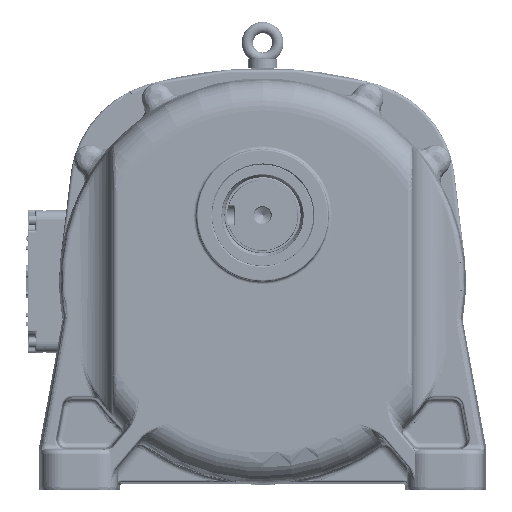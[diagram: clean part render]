
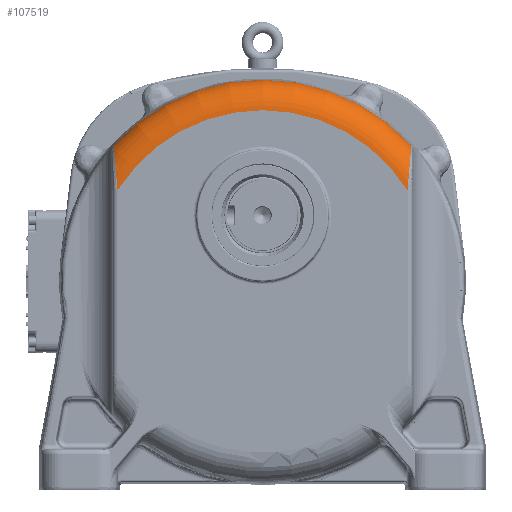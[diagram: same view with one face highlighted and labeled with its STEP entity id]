
A CAD part, front view. The second image highlights one B-rep face of the part: STEP entity #107519.
In plain terms, the highlighted toroidal (fillet/blend) face has major radius 168.286 mm and minor radius 30 mm.
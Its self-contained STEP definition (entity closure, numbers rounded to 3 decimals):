
#2210=TOROIDAL_SURFACE('',#114452,168.286,30.);
#3135=B_SPLINE_CURVE_WITH_KNOTS('',3,(#164563,#164564,#164565,#164566,#164567,
#164568,#164569,#164570),.UNSPECIFIED.,.F.,.F.,(4,1,1,1,1,4),(-4.797,
-3.426,-2.056,-1.028,-0.685,
0.),.UNSPECIFIED.);
#3136=B_SPLINE_CURVE_WITH_KNOTS('',3,(#164574,#164575,#164576,#164577,#164578,
#164579,#164580,#164581),.UNSPECIFIED.,.F.,.F.,(4,1,1,1,1,4),(-4.797,
-4.112,-3.427,-2.056,-0.685,
0.),.UNSPECIFIED.);
#3137=B_SPLINE_CURVE_WITH_KNOTS('',3,(#164582,#164583,#164584,#164585),
 .UNSPECIFIED.,.F.,.F.,(4,4),(-0.483,0.),.UNSPECIFIED.);
#3138=B_SPLINE_CURVE_WITH_KNOTS('',3,(#164586,#164587,#164588,#164589),
 .UNSPECIFIED.,.F.,.F.,(4,4),(0.,0.483),.UNSPECIFIED.);
#9314=FACE_OUTER_BOUND('',#15771,.T.);
#15771=EDGE_LOOP('',(#70151,#70152,#70153,#70154,#70155,#70156));
#36114=CIRCLE('',#114442,198.284);
#36124=CIRCLE('',#114453,168.286);
#42390=VERTEX_POINT('',#164482);
#42392=VERTEX_POINT('',#164493);
#42404=VERTEX_POINT('',#164561);
#42405=VERTEX_POINT('',#164562);
#42406=VERTEX_POINT('',#164571);
#42407=VERTEX_POINT('',#164573);
#52794=EDGE_CURVE('',#42392,#42390,#36114,.T.);
#52811=EDGE_CURVE('',#42404,#42405,#3135,.T.);
#52812=EDGE_CURVE('',#42404,#42406,#36124,.T.);
#52813=EDGE_CURVE('',#42407,#42406,#3136,.T.);
#52814=EDGE_CURVE('',#42392,#42407,#3137,.T.);
#52815=EDGE_CURVE('',#42405,#42390,#3138,.T.);
#70151=ORIENTED_EDGE('',*,*,#52811,.F.);
#70152=ORIENTED_EDGE('',*,*,#52812,.T.);
#70153=ORIENTED_EDGE('',*,*,#52813,.F.);
#70154=ORIENTED_EDGE('',*,*,#52814,.F.);
#70155=ORIENTED_EDGE('',*,*,#52794,.T.);
#70156=ORIENTED_EDGE('',*,*,#52815,.F.);
#107519=ADVANCED_FACE('',(#9314),#2210,.T.);
#114442=AXIS2_PLACEMENT_3D('',#164494,#127179,#127180);
#114452=AXIS2_PLACEMENT_3D('',#164560,#127199,#127200);
#114453=AXIS2_PLACEMENT_3D('',#164572,#127201,#127202);
#127179=DIRECTION('center_axis',(0.,-1.,0.));
#127180=DIRECTION('ref_axis',(-1.,0.,0.));
#127199=DIRECTION('center_axis',(0.,1.,0.));
#127200=DIRECTION('ref_axis',(0.,0.,1.));
#127201=DIRECTION('center_axis',(0.,1.,0.));
#127202=DIRECTION('ref_axis',(-1.,0.,0.));
#164482=CARTESIAN_POINT('',(-159.189,10.455,131.873));
#164493=CARTESIAN_POINT('',(133.806,10.455,131.873));
#164494=CARTESIAN_POINT('Origin',(-12.691,10.455,-1.75));
#164560=CARTESIAN_POINT('Origin',(-12.691,10.742,-1.75));
#164561=CARTESIAN_POINT('',(-155.191,-19.258,87.77));
#164562=CARTESIAN_POINT('',(-158.812,4.742,131.388));
#164563=CARTESIAN_POINT('Ctrl Pts',(-155.191,-19.258,
87.77));
#164564=CARTESIAN_POINT('Ctrl Pts',(-155.603,-19.258,
92.597));
#164565=CARTESIAN_POINT('Ctrl Pts',(-156.436,-18.415,
102.342));
#164566=CARTESIAN_POINT('Ctrl Pts',(-157.535,-14.01,
115.486));
#164567=CARTESIAN_POINT('Ctrl Pts',(-158.217,-7.794,
123.899));
#164568=CARTESIAN_POINT('Ctrl Pts',(-158.614,-1.566,
128.866));
#164569=CARTESIAN_POINT('Ctrl Pts',(-158.755,2.119,
130.656));
#164570=CARTESIAN_POINT('Ctrl Pts',(-158.812,4.742,
131.388));
#164571=CARTESIAN_POINT('',(129.809,-19.258,87.77));
#164572=CARTESIAN_POINT('Origin',(-12.691,-19.258,-1.75));
#164573=CARTESIAN_POINT('',(133.43,4.742,131.388));
#164574=CARTESIAN_POINT('Ctrl Pts',(133.43,4.742,131.388));
#164575=CARTESIAN_POINT('Ctrl Pts',(133.373,2.119,130.656));
#164576=CARTESIAN_POINT('Ctrl Pts',(133.184,-2.797,
128.269));
#164577=CARTESIAN_POINT('Ctrl Pts',(132.605,-10.577,
121.035));
#164578=CARTESIAN_POINT('Ctrl Pts',(131.666,-16.542,109.602));
#164579=CARTESIAN_POINT('Ctrl Pts',(130.635,-18.936,
97.452));
#164580=CARTESIAN_POINT('Ctrl Pts',(130.015,-19.258,
90.184));
#164581=CARTESIAN_POINT('Ctrl Pts',(129.809,-19.258,
87.77));
#164582=CARTESIAN_POINT('Ctrl Pts',(133.806,10.455,131.873));
#164583=CARTESIAN_POINT('Ctrl Pts',(133.596,8.555,132.076));
#164584=CARTESIAN_POINT('Ctrl Pts',(133.471,6.59,131.904));
#164585=CARTESIAN_POINT('Ctrl Pts',(133.43,4.742,131.388));
#164586=CARTESIAN_POINT('Ctrl Pts',(-158.812,4.742,
131.388));
#164587=CARTESIAN_POINT('Ctrl Pts',(-158.853,6.59,
131.904));
#164588=CARTESIAN_POINT('Ctrl Pts',(-158.979,8.555,
132.076));
#164589=CARTESIAN_POINT('Ctrl Pts',(-159.189,10.455,131.873));
